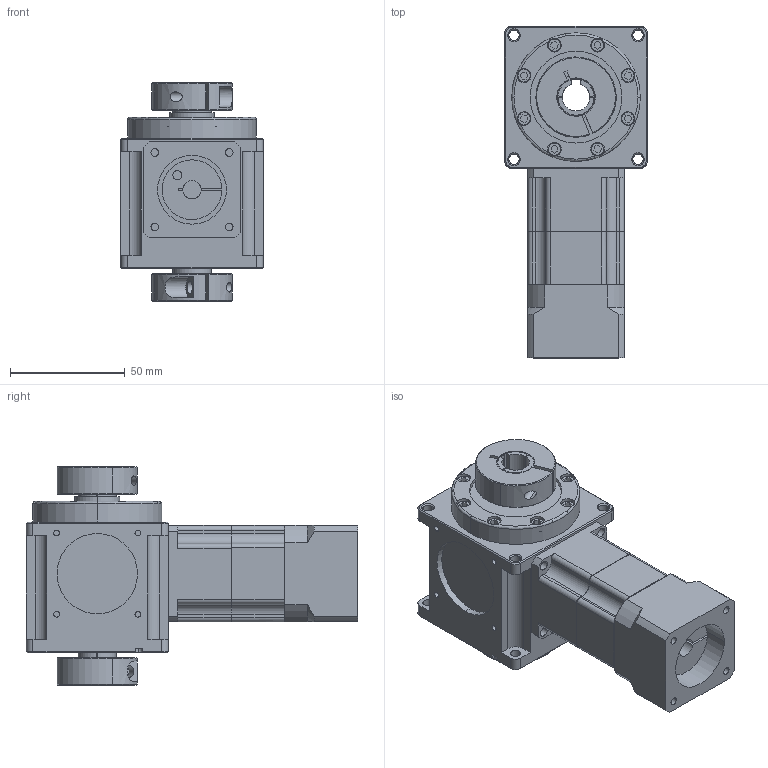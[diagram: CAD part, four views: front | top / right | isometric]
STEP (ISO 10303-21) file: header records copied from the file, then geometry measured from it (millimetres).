
FILE_DESCRIPTION (( 'STEP AP214' ), '1' );
FILE_NAME ('CCW062A-L2(24-100)-2HP-K 8-30-46-M4.STEP', '2025-06-02T08:42:53', ( '微软用户' ), ( '微软中国' ), 'SwSTEP 2.0', 'SolidWorks 2024', '' );
FILE_SCHEMA (( 'AUTOMOTIVE_DESIGN' ));
Length unit declared in the file: millimetre
Products named in the file (4): CCW062A-002-2HP-K箱体; CCW062A-L2(24-100)-2HP-K 8-30-46-M4; 标准型开口式固定环[FP-16-12-C]_FP-16-12-C; 042-L2齿圈
Assembly tree (4 placements, depth 2):
  CCW062A-L2(24-100)-2HP-K 8-30-46-M4
    CCW062A-002-2HP-K箱体
    标准型开口式固定环[FP-16-12-C]_FP-16-12-C  x2
    042-L2齿圈
Bounding box: 62 x 144.5 x 95 mm (x, y, z)
Volume: 342925.8 mm3; surface area: 61779.4 mm2
Topology: 4 solids, 4 shells, 579 faces, 1402 edges, 880 vertices
Faces by surface type: plane 272, cylinder 205, cone 94, torus 8
Entity records: 16313 total; most frequent: CARTESIAN_POINT 3049, DIRECTION 2881, ORIENTED_EDGE 2640, EDGE_CURVE 1320, AXIS2_PLACEMENT_3D 1066, VERTEX_POINT 827, VECTOR 749, LINE 749
